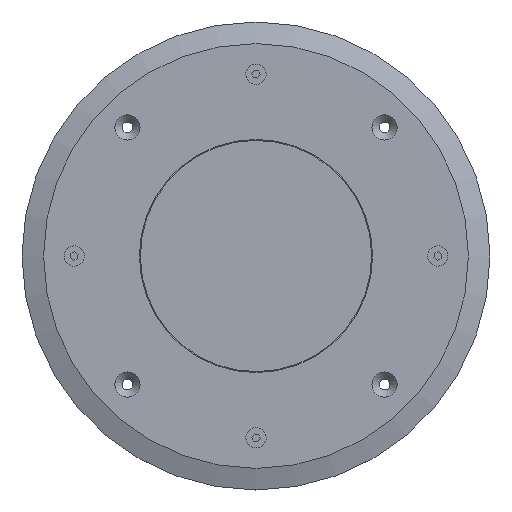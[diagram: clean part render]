
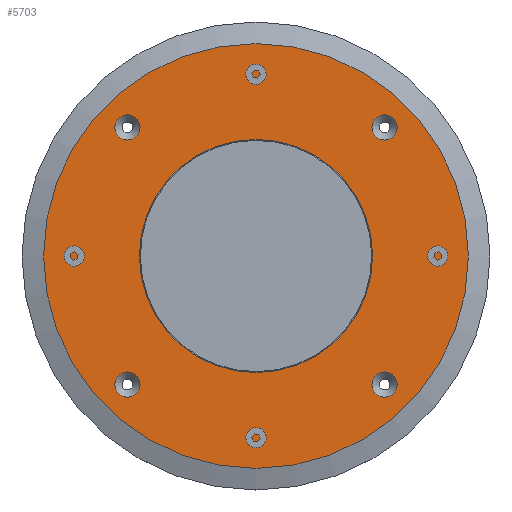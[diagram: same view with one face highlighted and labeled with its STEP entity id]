
A CAD part, top view. The second image highlights one B-rep face of the part: STEP entity #5703.
In plain terms, the highlighted planar face has unit normal (0, 0, 1).
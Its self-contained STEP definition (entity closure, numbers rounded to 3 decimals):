
#1234=CIRCLE('',#6134,7.);
#1236=CIRCLE('',#6138,7.);
#1237=CIRCLE('',#6139,7.);
#1238=CIRCLE('',#6140,64.75);
#1239=CIRCLE('',#6141,118.);
#1240=CIRCLE('',#6142,7.);
#1498=VERTEX_POINT('',#8464);
#1500=VERTEX_POINT('',#8470);
#1501=VERTEX_POINT('',#8472);
#1502=VERTEX_POINT('',#8474);
#1503=VERTEX_POINT('',#8476);
#1504=VERTEX_POINT('',#8478);
#2727=EDGE_CURVE('',#1498,#1498,#1234,.T.);
#2729=EDGE_CURVE('',#1500,#1500,#1236,.T.);
#2730=EDGE_CURVE('',#1501,#1501,#1237,.T.);
#2731=EDGE_CURVE('',#1502,#1502,#1238,.T.);
#2732=EDGE_CURVE('',#1503,#1503,#1239,.T.);
#2733=EDGE_CURVE('',#1504,#1504,#1240,.T.);
#3552=ORIENTED_EDGE('',*,*,#2729,.F.);
#3553=ORIENTED_EDGE('',*,*,#2730,.F.);
#3554=ORIENTED_EDGE('',*,*,#2731,.F.);
#3555=ORIENTED_EDGE('',*,*,#2732,.F.);
#3556=ORIENTED_EDGE('',*,*,#2733,.F.);
#3557=ORIENTED_EDGE('',*,*,#2727,.F.);
#4738=EDGE_LOOP('',(#3552));
#4739=EDGE_LOOP('',(#3553));
#4740=EDGE_LOOP('',(#3554));
#4741=EDGE_LOOP('',(#3555));
#4742=EDGE_LOOP('',(#3556));
#4743=EDGE_LOOP('',(#3557));
#5260=FACE_BOUND('',#4738,.T.);
#5261=FACE_BOUND('',#4739,.T.);
#5262=FACE_BOUND('',#4740,.T.);
#5263=FACE_BOUND('',#4741,.T.);
#5264=FACE_BOUND('',#4742,.T.);
#5265=FACE_BOUND('',#4743,.T.);
#5703=ADVANCED_FACE('',(#5260,#5261,#5262,#5263,#5264,#5265),#10308,.T.);
#6134=AXIS2_PLACEMENT_3D('',#8463,#6875,#6876);
#6137=AXIS2_PLACEMENT_3D('',#8468,#6881,$);
#6138=AXIS2_PLACEMENT_3D('',#8469,#6882,#6883);
#6139=AXIS2_PLACEMENT_3D('',#8471,#6884,#6885);
#6140=AXIS2_PLACEMENT_3D('',#8473,#6886,#6887);
#6141=AXIS2_PLACEMENT_3D('',#8475,#6888,#6889);
#6142=AXIS2_PLACEMENT_3D('',#8477,#6890,#6891);
#6875=DIRECTION('',(0.,0.,1.));
#6876=DIRECTION('',(0.,7.,0.));
#6881=DIRECTION('',(0.,0.,1.));
#6882=DIRECTION('',(0.,0.,1.));
#6883=DIRECTION('',(7.,0.,0.));
#6884=DIRECTION('',(0.,0.,1.));
#6885=DIRECTION('',(-7.,0.,0.));
#6886=DIRECTION('',(0.,0.,1.));
#6887=DIRECTION('',(64.75,0.,0.));
#6888=DIRECTION('',(0.,0.,-1.));
#6889=DIRECTION('',(-118.,0.,0.));
#6890=DIRECTION('',(0.,0.,1.));
#6891=DIRECTION('',(0.,-7.,0.));
#8463=CARTESIAN_POINT('',(71.418,71.418,5.));
#8464=CARTESIAN_POINT('',(71.418,64.418,5.));
#8468=CARTESIAN_POINT('',(0.,0.,5.));
#8469=CARTESIAN_POINT('',(71.418,-71.418,5.));
#8470=CARTESIAN_POINT('',(64.418,-71.418,5.));
#8471=CARTESIAN_POINT('',(-71.418,71.418,5.));
#8472=CARTESIAN_POINT('',(-64.418,71.418,5.));
#8473=CARTESIAN_POINT('',(0.,0.,5.));
#8474=CARTESIAN_POINT('',(64.75,0.,5.));
#8475=CARTESIAN_POINT('',(0.,0.,5.));
#8476=CARTESIAN_POINT('',(118.,0.,5.));
#8477=CARTESIAN_POINT('',(-71.418,-71.418,5.));
#8478=CARTESIAN_POINT('',(-71.418,-64.418,5.));
#10308=PLANE('',#6137);
